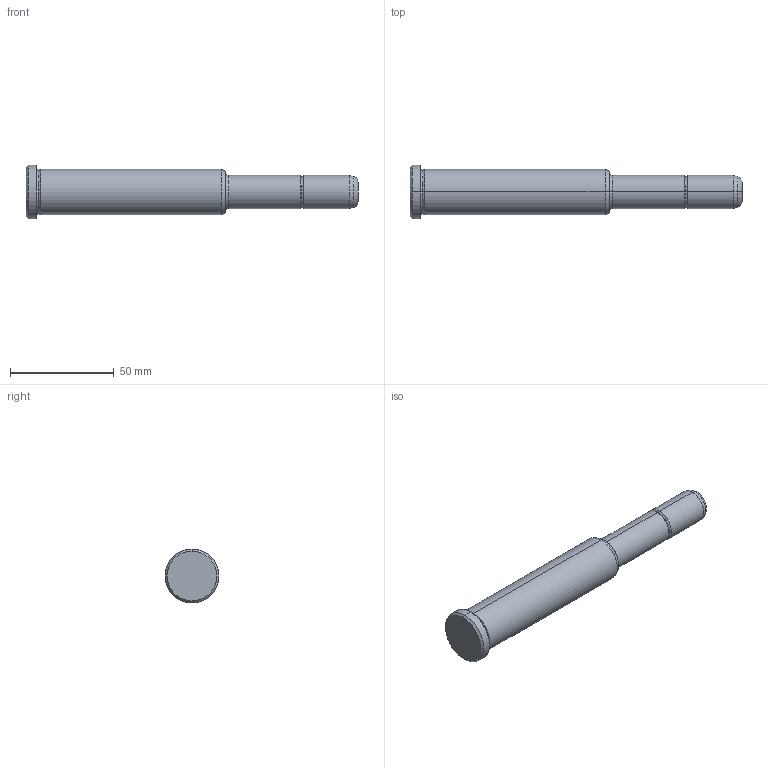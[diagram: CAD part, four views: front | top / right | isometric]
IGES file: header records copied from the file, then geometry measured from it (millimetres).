
Start section: START RECORD GO HERE.
Global section: file name: 351-16X96X160.igs; native system: DASSAULT SYSTEMES CATIA V5 R20 - www.3ds.com; preprocessor: CATIA Version 5 Release 20 ; author: Utente; organization: NB04-ASUS; date: 20210818.144402; units: millimetre
Bounding box: 160 x 26 x 26 mm (x, y, z)
Surface area: 10779.9 mm2 (no closed solid volume)
Topology: 0 solids, 0 shells, 30 faces, 172 edges, 172 vertices
Faces by surface type: revolution 26, plane 4
